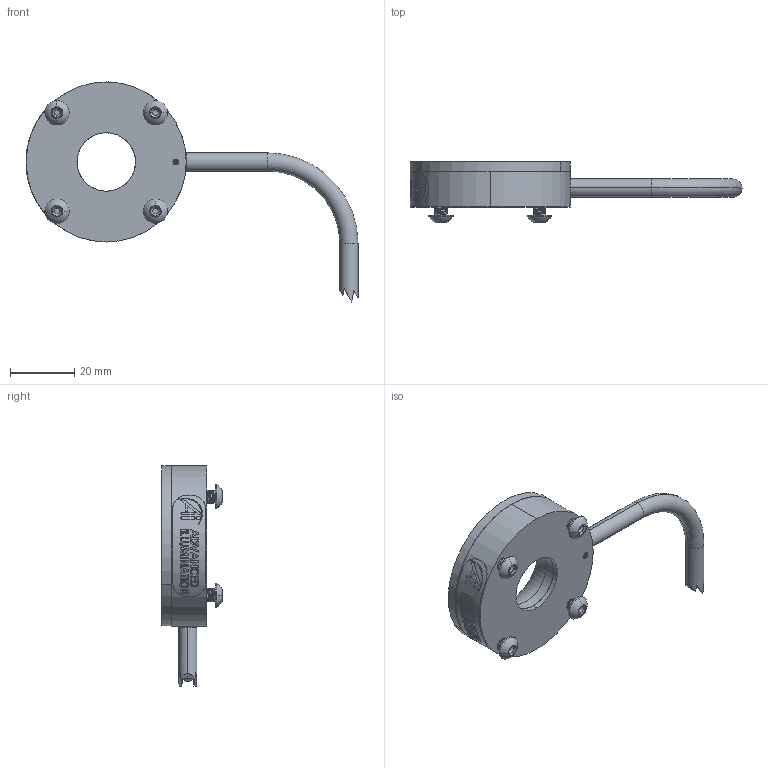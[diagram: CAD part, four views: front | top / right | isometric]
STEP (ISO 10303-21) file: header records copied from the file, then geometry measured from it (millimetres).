
FILE_DESCRIPTION (( 'STEP AP214' ), '1' );
FILE_NAME ('DF198-050_Default.stp', '2021-05-07T18:37:00', ( '' ), ( '' ), 'SwSTEP 2.0', 'SolidWorks 2018', '' );
FILE_SCHEMA (( 'AUTOMOTIVE_DESIGN' ));
Length unit declared in the file: inch
Products named in the file (8): 091052 DF196-50; 097012_91253A078; DF198-050_Default; 092752_Default<As Machined>; 092773; 092531_91375A076; 092408_TRUNCATED; BH-M4x8
Assembly tree (13 placements, depth 2):
  DF198-050_Default
    092752_Default<As Machined>
    092531_91375A076
    092773
    097012_91253A078  x4
    BH-M4x8  x4
    091052 DF196-50
    092408_TRUNCATED
Bounding box: 103.7 x 18.86 x 68.76 mm (x, y, z)
Volume: 19170.2 mm3; surface area: 17216 mm2
Topology: 20 solids, 20 shells, 843 faces, 2092 edges, 1327 vertices
Faces by surface type: cylinder 322, plane 280, bspline 110, cone 107, torus 24
Entity records: 31460 total; most frequent: CARTESIAN_POINT 15298, ORIENTED_EDGE 2594, DIRECTION 2047, EDGE_CURVE 1297, VERTEX_POINT 838, AXIS2_PLACEMENT_3D 810, EDGE_LOOP 597, ADVANCED_FACE 528
